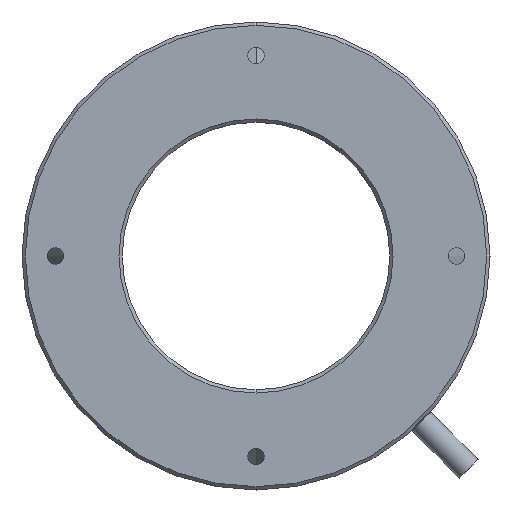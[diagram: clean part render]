
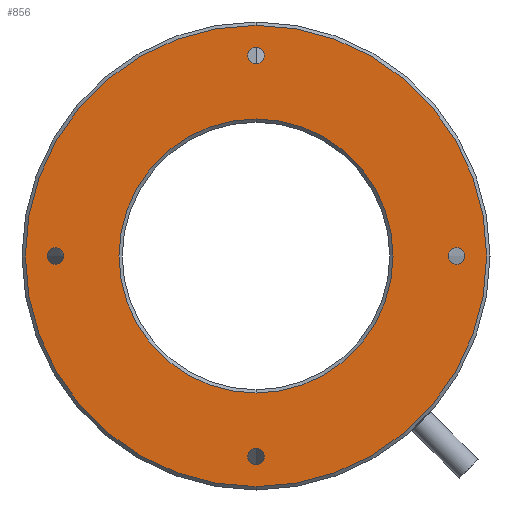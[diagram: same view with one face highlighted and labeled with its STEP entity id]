
A CAD part, front view. The second image highlights one B-rep face of the part: STEP entity #856.
In plain terms, the highlighted planar face has unit normal (0, -1, 0).
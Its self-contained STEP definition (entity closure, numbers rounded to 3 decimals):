
#28 = AXIS2_PLACEMENT_3D ( 'NONE', #130, #2806, #1491 ) ;
#31 = AXIS2_PLACEMENT_3D ( 'NONE', #1638, #2303, #209 ) ;
#35 = ORIENTED_EDGE ( 'NONE', *, *, #2487, .F. ) ;
#60 = DIRECTION ( 'NONE',  ( 0., -1., 0. ) ) ;
#64 = AXIS2_PLACEMENT_3D ( 'NONE', #1695, #978, #2557 ) ;
#70 = VERTEX_POINT ( 'NONE', #2417 ) ;
#96 = EDGE_LOOP ( 'NONE', ( #671, #2476 ) ) ;
#130 = CARTESIAN_POINT ( 'NONE',  ( 0., 0., 0. ) ) ;
#136 = DIRECTION ( 'NONE',  ( 0., -1., 0. ) ) ;
#146 = CARTESIAN_POINT ( 'NONE',  ( -30., 0., 0. ) ) ;
#150 = CIRCLE ( 'NONE', #2548, 1.25 ) ;
#162 = FACE_BOUND ( 'NONE', #2161, .T. ) ;
#200 = CARTESIAN_POINT ( 'NONE',  ( 30., 0., 1.25 ) ) ;
#203 = EDGE_CURVE ( 'NONE', #2835, #1482, #532, .T. ) ;
#206 = VERTEX_POINT ( 'NONE', #2688 ) ;
#209 = DIRECTION ( 'NONE',  ( 0., 0., -1. ) ) ;
#226 = VERTEX_POINT ( 'NONE', #1865 ) ;
#239 = FACE_BOUND ( 'NONE', #96, .T. ) ;
#249 = DIRECTION ( 'NONE',  ( 0., 1., 0. ) ) ;
#270 = DIRECTION ( 'NONE',  ( 0., -1., 0. ) ) ;
#376 = FACE_BOUND ( 'NONE', #2631, .T. ) ;
#394 = ORIENTED_EDGE ( 'NONE', *, *, #2711, .F. ) ;
#396 = CARTESIAN_POINT ( 'NONE',  ( 1.25, 0., 30. ) ) ;
#419 = ORIENTED_EDGE ( 'NONE', *, *, #2028, .F. ) ;
#437 = CIRCLE ( 'NONE', #1039, 1.25 ) ;
#532 = CIRCLE ( 'NONE', #597, 1.25 ) ;
#534 = CARTESIAN_POINT ( 'NONE',  ( 0., 0., -20.5 ) ) ;
#554 = CARTESIAN_POINT ( 'NONE',  ( 0., 0., -30. ) ) ;
#597 = AXIS2_PLACEMENT_3D ( 'NONE', #146, #1391, #1384 ) ;
#615 = DIRECTION ( 'NONE',  ( 0., -1., 0. ) ) ;
#627 = CARTESIAN_POINT ( 'NONE',  ( 0., 0., -34.5 ) ) ;
#632 = DIRECTION ( 'NONE',  ( 1., 0., 0. ) ) ;
#662 = CARTESIAN_POINT ( 'NONE',  ( -30., 0., 1.25 ) ) ;
#671 = ORIENTED_EDGE ( 'NONE', *, *, #2227, .F. ) ;
#689 = EDGE_LOOP ( 'NONE', ( #2228, #35 ) ) ;
#760 = CARTESIAN_POINT ( 'NONE',  ( 30., 0., 0. ) ) ;
#762 = FACE_BOUND ( 'NONE', #2073, .T. ) ;
#783 = CIRCLE ( 'NONE', #31, 1.25 ) ;
#827 = EDGE_CURVE ( 'NONE', #2454, #1848, #2764, .T. ) ;
#856 = ADVANCED_FACE ( 'NONE', ( #376, #1458, #239, #762, #162, #2552 ), #2920, .F. ) ;
#859 = CARTESIAN_POINT ( 'NONE',  ( 0., 0., 0. ) ) ;
#860 = CARTESIAN_POINT ( 'NONE',  ( 0., 0., 30. ) ) ;
#868 = DIRECTION ( 'NONE',  ( 0., 0., -1. ) ) ;
#887 = CIRCLE ( 'NONE', #2467, 1.25 ) ;
#921 = EDGE_CURVE ( 'NONE', #206, #2542, #1785, .T. ) ;
#927 = DIRECTION ( 'NONE',  ( -1., 0., 0. ) ) ;
#939 = AXIS2_PLACEMENT_3D ( 'NONE', #1194, #2220, #1454 ) ;
#978 = DIRECTION ( 'NONE',  ( 0., -1., 0. ) ) ;
#1039 = AXIS2_PLACEMENT_3D ( 'NONE', #1157, #2341, #927 ) ;
#1067 = CARTESIAN_POINT ( 'NONE',  ( 0., 0., 0. ) ) ;
#1102 = CARTESIAN_POINT ( 'NONE',  ( -1.25, 0., -30. ) ) ;
#1157 = CARTESIAN_POINT ( 'NONE',  ( 0., 0., -30. ) ) ;
#1194 = CARTESIAN_POINT ( 'NONE',  ( 0., 0., 0. ) ) ;
#1280 = EDGE_CURVE ( 'NONE', #1508, #2353, #2218, .T. ) ;
#1352 = CARTESIAN_POINT ( 'NONE',  ( 0., 0., 34.5 ) ) ;
#1384 = DIRECTION ( 'NONE',  ( 0., 0., 1. ) ) ;
#1391 = DIRECTION ( 'NONE',  ( 0., -1., 0. ) ) ;
#1404 = DIRECTION ( 'NONE',  ( 1., 0., 0. ) ) ;
#1454 = DIRECTION ( 'NONE',  ( 0., 0., -1. ) ) ;
#1458 = FACE_BOUND ( 'NONE', #689, .T. ) ;
#1482 = VERTEX_POINT ( 'NONE', #1877 ) ;
#1491 = DIRECTION ( 'NONE',  ( 0., 0., -1. ) ) ;
#1496 = EDGE_CURVE ( 'NONE', #1848, #2454, #2428, .T. ) ;
#1508 = VERTEX_POINT ( 'NONE', #1749 ) ;
#1523 = CIRCLE ( 'NONE', #1879, 1.25 ) ;
#1581 = DIRECTION ( 'NONE',  ( 0., 0., 1. ) ) ;
#1626 = DIRECTION ( 'NONE',  ( 0., 0., -1. ) ) ;
#1638 = CARTESIAN_POINT ( 'NONE',  ( 30., 0., 0. ) ) ;
#1645 = EDGE_CURVE ( 'NONE', #1938, #226, #1523, .T. ) ;
#1695 = CARTESIAN_POINT ( 'NONE',  ( 0., 0., 0. ) ) ;
#1749 = CARTESIAN_POINT ( 'NONE',  ( 30., 0., -1.25 ) ) ;
#1784 = AXIS2_PLACEMENT_3D ( 'NONE', #1869, #615, #2233 ) ;
#1785 = CIRCLE ( 'NONE', #2670, 20.5 ) ;
#1848 = VERTEX_POINT ( 'NONE', #627 ) ;
#1865 = CARTESIAN_POINT ( 'NONE',  ( 1.25, 0., -30. ) ) ;
#1869 = CARTESIAN_POINT ( 'NONE',  ( -30., 0., 0. ) ) ;
#1877 = CARTESIAN_POINT ( 'NONE',  ( -30., 0., -1.25 ) ) ;
#1879 = AXIS2_PLACEMENT_3D ( 'NONE', #554, #2176, #2366 ) ;
#1880 = CIRCLE ( 'NONE', #64, 20.5 ) ;
#1898 = AXIS2_PLACEMENT_3D ( 'NONE', #1067, #249, #1581 ) ;
#1938 = VERTEX_POINT ( 'NONE', #1102 ) ;
#2028 = EDGE_CURVE ( 'NONE', #2542, #206, #1880, .T. ) ;
#2073 = EDGE_LOOP ( 'NONE', ( #2634, #2425 ) ) ;
#2154 = ORIENTED_EDGE ( 'NONE', *, *, #203, .F. ) ;
#2161 = EDGE_LOOP ( 'NONE', ( #419, #2809 ) ) ;
#2169 = CIRCLE ( 'NONE', #1784, 1.25 ) ;
#2176 = DIRECTION ( 'NONE',  ( 0., -1., 0. ) ) ;
#2218 = CIRCLE ( 'NONE', #2925, 1.25 ) ;
#2220 = DIRECTION ( 'NONE',  ( 0., -1., 0. ) ) ;
#2227 = EDGE_CURVE ( 'NONE', #2635, #70, #150, .T. ) ;
#2228 = ORIENTED_EDGE ( 'NONE', *, *, #1645, .F. ) ;
#2233 = DIRECTION ( 'NONE',  ( 0., 0., 1. ) ) ;
#2278 = EDGE_LOOP ( 'NONE', ( #2938, #2455 ) ) ;
#2303 = DIRECTION ( 'NONE',  ( 0., -1., 0. ) ) ;
#2341 = DIRECTION ( 'NONE',  ( 0., -1., 0. ) ) ;
#2353 = VERTEX_POINT ( 'NONE', #200 ) ;
#2366 = DIRECTION ( 'NONE',  ( -1., 0., 0. ) ) ;
#2417 = CARTESIAN_POINT ( 'NONE',  ( -1.25, 0., 30. ) ) ;
#2425 = ORIENTED_EDGE ( 'NONE', *, *, #2826, .F. ) ;
#2428 = CIRCLE ( 'NONE', #28, 34.5 ) ;
#2454 = VERTEX_POINT ( 'NONE', #1352 ) ;
#2455 = ORIENTED_EDGE ( 'NONE', *, *, #1496, .T. ) ;
#2467 = AXIS2_PLACEMENT_3D ( 'NONE', #860, #136, #1404 ) ;
#2475 = DIRECTION ( 'NONE',  ( 0., -1., 0. ) ) ;
#2476 = ORIENTED_EDGE ( 'NONE', *, *, #2518, .F. ) ;
#2487 = EDGE_CURVE ( 'NONE', #226, #1938, #437, .T. ) ;
#2518 = EDGE_CURVE ( 'NONE', #70, #2635, #887, .T. ) ;
#2542 = VERTEX_POINT ( 'NONE', #534 ) ;
#2548 = AXIS2_PLACEMENT_3D ( 'NONE', #2872, #2475, #632 ) ;
#2552 = FACE_OUTER_BOUND ( 'NONE', #2278, .T. ) ;
#2557 = DIRECTION ( 'NONE',  ( 0., 0., -1. ) ) ;
#2631 = EDGE_LOOP ( 'NONE', ( #2154, #394 ) ) ;
#2634 = ORIENTED_EDGE ( 'NONE', *, *, #1280, .F. ) ;
#2635 = VERTEX_POINT ( 'NONE', #396 ) ;
#2670 = AXIS2_PLACEMENT_3D ( 'NONE', #859, #270, #1626 ) ;
#2688 = CARTESIAN_POINT ( 'NONE',  ( 0., 0., 20.5 ) ) ;
#2711 = EDGE_CURVE ( 'NONE', #1482, #2835, #2169, .T. ) ;
#2764 = CIRCLE ( 'NONE', #939, 34.5 ) ;
#2806 = DIRECTION ( 'NONE',  ( 0., -1., 0. ) ) ;
#2809 = ORIENTED_EDGE ( 'NONE', *, *, #921, .F. ) ;
#2826 = EDGE_CURVE ( 'NONE', #2353, #1508, #783, .T. ) ;
#2835 = VERTEX_POINT ( 'NONE', #662 ) ;
#2872 = CARTESIAN_POINT ( 'NONE',  ( 0., 0., 30. ) ) ;
#2920 = PLANE ( 'NONE',  #1898 ) ;
#2925 = AXIS2_PLACEMENT_3D ( 'NONE', #760, #60, #868 ) ;
#2938 = ORIENTED_EDGE ( 'NONE', *, *, #827, .T. ) ;
